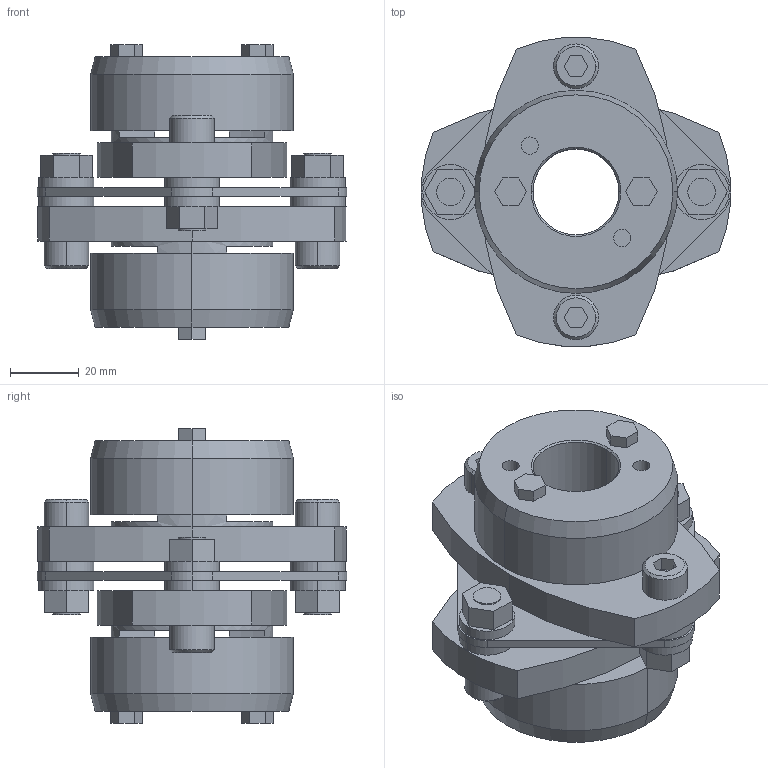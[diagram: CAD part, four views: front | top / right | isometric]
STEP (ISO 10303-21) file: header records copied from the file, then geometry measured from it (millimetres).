
FILE_DESCRIPTION((''),'2;1');
FILE_NAME('LCS-90T7-25×25.stp','2011-09-09T10:09:21',(''),(''),'AutoCAD STEP 2000i','AutoCAD 2000i',', , ');
FILE_SCHEMA(('CONFIG_CONTROL_DESIGN'));
Length unit declared in the file: millimetre
Products named in the file (9): LCS-90T7-25×25; 忣兜1; LC90T7-T025-1; LC90T7-T025; LC90T7-T019-1; LC90T7-T019; LC90-B019-1; LC90-B019; LCS90-ITA
Assembly tree (8 placements, depth 2):
  LCS-90T7-25×25
    忣兜1
    LC90T7-T025-1
    LC90T7-T025
    LC90T7-T019-1
    LC90T7-T019
    LC90-B019-1
    LC90-B019
    LCS90-ITA
Bounding box: 90 x 89.94 x 85.5 mm (x, y, z)
Volume: 195931 mm3; surface area: 51802.4 mm2
Topology: 1 solids, 1 shells, 218 faces, 532 edges, 348 vertices
Faces by surface type: plane 118, cylinder 80, cone 20
Entity records: 6675 total; most frequent: DIRECTION 1182, CARTESIAN_POINT 1107, ORIENTED_EDGE 1064, EDGE_CURVE 532, AXIS2_PLACEMENT_3D 423, VERTEX_POINT 348, VECTOR 336, LINE 336
